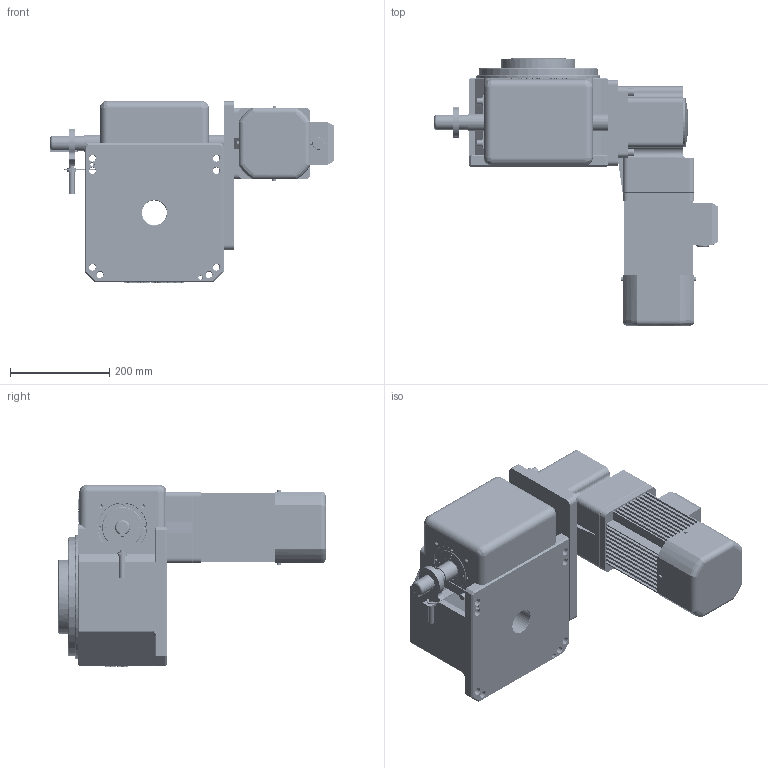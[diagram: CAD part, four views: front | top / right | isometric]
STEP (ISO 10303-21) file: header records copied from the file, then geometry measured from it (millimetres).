
FILE_DESCRIPTION (( 'STEP AP214' ), '1' );
FILE_NAME ('ER-RU140DT英锐凸轮分割器固定盘壳体法兰面销孔3D垂直直联式右侧JY(电话15062628977)AA.STEP', '2022-11-10T07:10:30', ( '微软用户' ), ( '微软中国' ), 'SwSTEP 2.0', 'SolidWorks 2017', '' );
FILE_SCHEMA (( 'AUTOMOTIVE_DESIGN' ));
Length unit declared in the file: millimetre
Products named in the file (1): ER-RU140DT英锐凸轮分割器固定盘壳体法兰面销孔3D垂直直联式右侧JY(电话15062628977)AA
Bounding box: 572 x 541 x 368 mm (x, y, z)
Volume: 26614929 mm3; surface area: 1197729.6 mm2
Topology: 3 solids, 12 shells, 3367 faces, 9169 edges, 5933 vertices
Faces by surface type: plane 1535, cylinder 990, bspline 536, cone 302, torus 4
Entity records: 221340 total; most frequent: CARTESIAN_POINT 121338, ORIENTED_EDGE 18126, DIRECTION 12943, EDGE_CURVE 9063, VERTEX_POINT 5933, VECTOR 5543, LINE 5543, AXIS2_PLACEMENT_3D 3700
